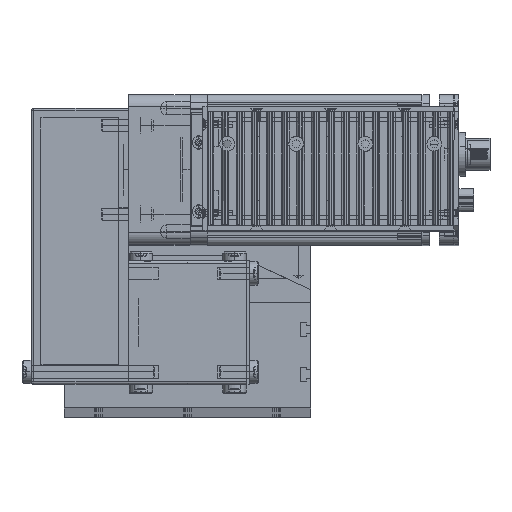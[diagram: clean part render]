
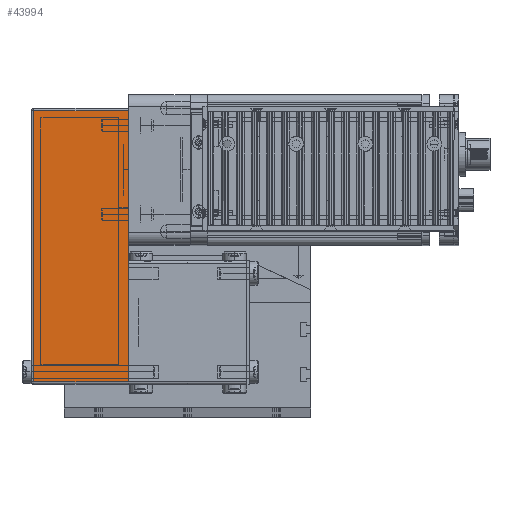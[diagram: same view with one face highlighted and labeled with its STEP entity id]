
A CAD part, top view. The second image highlights one B-rep face of the part: STEP entity #43994.
In plain terms, the highlighted planar face has unit normal (0, 0, 1) as drawn and (0, -1, 0) by its records, which use the part's own axes.
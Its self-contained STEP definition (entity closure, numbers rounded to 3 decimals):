
#27237 = CARTESIAN_POINT ( 'NONE',  ( -49., -25., 39.5 ) ) ;
#27764 = VECTOR ( 'NONE', #27767, 1000. ) ;
#27767 = DIRECTION ( 'NONE',  ( 0., 0., 1. ) ) ;
#29365 = LINE ( 'NONE', #27237, #27764 ) ;
#29587 = CARTESIAN_POINT ( 'NONE',  ( -49., -25., 0. ) ) ;
#29653 = CARTESIAN_POINT ( 'NONE',  ( -49., -25., 38.5 ) ) ;
#29654 = CARTESIAN_POINT ( 'NONE',  ( 61., -25., 38.5 ) ) ;
#29667 = CARTESIAN_POINT ( 'NONE',  ( 61., -25., 0. ) ) ;
#29749 = DIRECTION ( 'NONE',  ( 0., 0., -1. ) ) ;
#29750 = VECTOR ( 'NONE', #29749, 1000. ) ;
#29754 = CARTESIAN_POINT ( 'NONE',  ( 61., -25., 39.5 ) ) ;
#29755 = LINE ( 'NONE', #29754, #29750 ) ;
#29778 = VECTOR ( 'NONE', #29822, 1000. ) ;
#29779 = CARTESIAN_POINT ( 'NONE',  ( -50., -25., 0. ) ) ;
#29795 = LINE ( 'NONE', #29779, #29778 ) ;
#29822 = DIRECTION ( 'NONE',  ( 1., 0., 0. ) ) ;
#30012 = DIRECTION ( 'NONE',  ( 0., 0., 1. ) ) ;
#30013 = DIRECTION ( 'NONE',  ( 0., 1., 0. ) ) ;
#30023 = AXIS2_PLACEMENT_3D ( 'NONE', #30025, #30013, #30012 ) ;
#30024 = FACE_OUTER_BOUND ( 'NONE', #44006, .T. ) ;
#30025 = CARTESIAN_POINT ( 'NONE',  ( -50., -25., 39.5 ) ) ;
#30026 = DIRECTION ( 'NONE',  ( 1., 0., 0. ) ) ;
#30027 = VECTOR ( 'NONE', #30026, 1000. ) ;
#30028 = CARTESIAN_POINT ( 'NONE',  ( -50., -25., 38.5 ) ) ;
#30030 = LINE ( 'NONE', #30028, #30027 ) ;
#30039 = PLANE ( 'NONE',  #30023 ) ;
#43709 = VERTEX_POINT ( 'NONE', #29587 ) ;
#43786 = VERTEX_POINT ( 'NONE', #29667 ) ;
#43793 = VERTEX_POINT ( 'NONE', #29654 ) ;
#43798 = EDGE_CURVE ( 'NONE', #43709, #43803, #29365, .T. ) ;
#43803 = VERTEX_POINT ( 'NONE', #29653 ) ;
#43890 = EDGE_CURVE ( 'NONE', #43793, #43786, #29755, .T. ) ;
#43918 = EDGE_CURVE ( 'NONE', #43709, #43786, #29795, .T. ) ;
#43991 = EDGE_CURVE ( 'NONE', #43803, #43793, #30030, .T. ) ;
#43994 = ADVANCED_FACE ( 'NONE', ( #30024 ), #30039, .F. ) ;
#43996 = ORIENTED_EDGE ( 'NONE', *, *, #43798, .F. ) ;
#43998 = ORIENTED_EDGE ( 'NONE', *, *, #43890, .F. ) ;
#44001 = ORIENTED_EDGE ( 'NONE', *, *, #43991, .F. ) ;
#44006 = EDGE_LOOP ( 'NONE', ( #43996, #44009, #43998, #44001 ) ) ;
#44009 = ORIENTED_EDGE ( 'NONE', *, *, #43918, .T. ) ;
